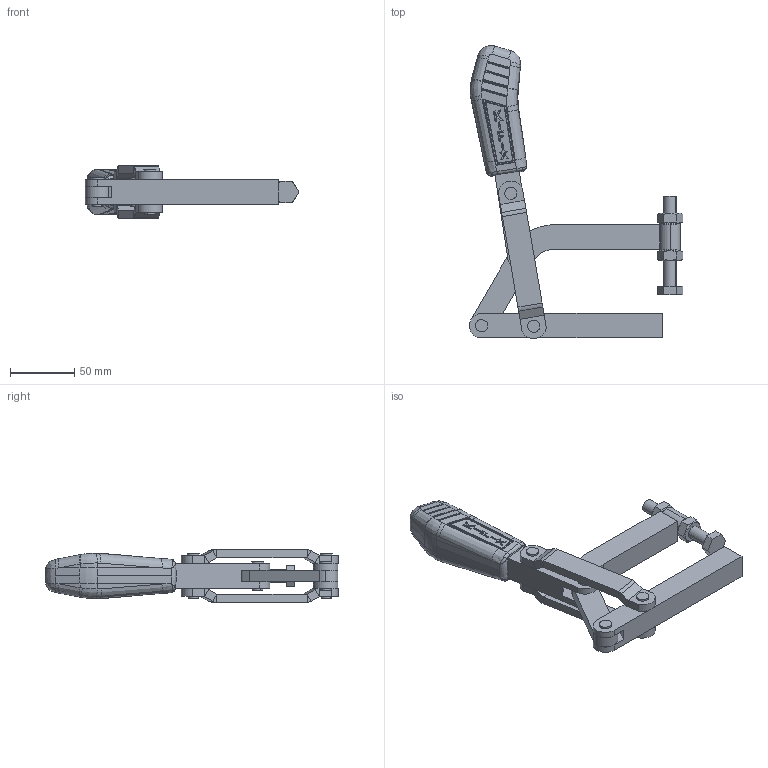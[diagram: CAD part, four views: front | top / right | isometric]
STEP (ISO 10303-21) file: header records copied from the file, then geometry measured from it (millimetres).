
FILE_DESCRIPTION (( 'STEP AP203' ), '1' );
FILE_NAME ('KF-05 MP.STEP', '2015-07-17T12:03:20', ( 'Ricardo' ), ( '' ), 'SwSTEP 2.0', 'SolidWorks 2014', '' );
FILE_SCHEMA (( 'CONFIG_CONTROL_DESIGN' ));
Length unit declared in the file: millimetre
Products named in the file (12): 02.10011; PSB-M10; 03.15011_Montagem; 07.60202; 01.20005; KF-05 MP; 08.10016; 06.50016; 06.50017; 20.20005; 11.50003; 12.50004
Assembly tree (15 placements, depth 3):
  KF-05 MP
    02.10011
    03.15011_Montagem
    01.20005
    08.10016  x2
    06.50016  x2
    06.50017  x2
    PSB-M10
      20.20005
      11.50003  x2
      12.50004
    07.60202
Bounding box: 165.77 x 227.78 x 40.75 mm (x, y, z)
Volume: 256664.8 mm3; surface area: 81872.7 mm2
Topology: 14 solids, 14 shells, 741 faces, 1877 edges, 1172 vertices
Faces by surface type: bspline 271, plane 234, cylinder 143, sphere 52, cone 38, torus 3
Entity records: 28391 total; most frequent: CARTESIAN_POINT 13610, ORIENTED_EDGE 3352, DIRECTION 1964, EDGE_CURVE 1676, VERTEX_POINT 1062, B_SPLINE_CURVE_WITH_KNOTS 851, AXIS2_PLACEMENT_3D 760, EDGE_LOOP 708
